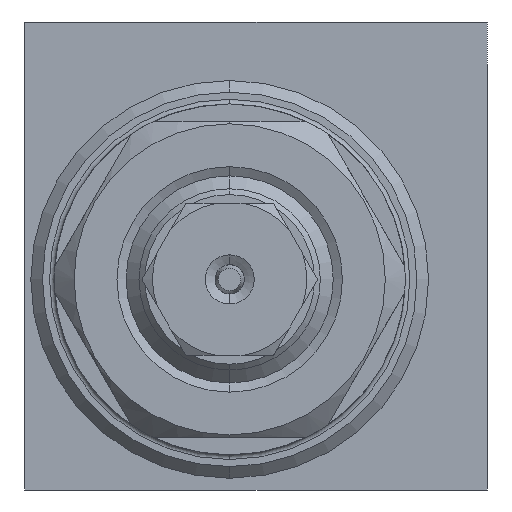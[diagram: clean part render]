
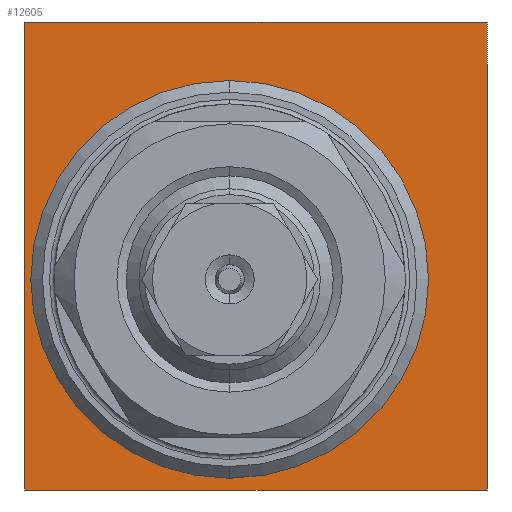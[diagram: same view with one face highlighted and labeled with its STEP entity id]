
A CAD part, left-side view. The second image highlights one B-rep face of the part: STEP entity #12605.
In plain terms, the highlighted planar face has unit normal (-1, 0, 0).
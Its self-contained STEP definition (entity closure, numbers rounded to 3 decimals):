
#59 = CARTESIAN_POINT ( 'NONE',  ( 0., 19.75, -20. ) ) ;
#429 = AXIS2_PLACEMENT_3D ( 'NONE', #5376, #5317, #5282 ) ;
#553 = CARTESIAN_POINT ( 'NONE',  ( 0., 19.75, 20. ) ) ;
#565 = CIRCLE ( 'NONE', #10814, 17. ) ;
#729 = CARTESIAN_POINT ( 'NONE',  ( 0., 2.25, 15. ) ) ;
#798 = VERTEX_POINT ( 'NONE', #12032 ) ;
#1093 = ORIENTED_EDGE ( 'NONE', *, *, #8546, .F. ) ;
#1127 = DIRECTION ( 'NONE',  ( 0., 0., 1. ) ) ;
#1177 = VERTEX_POINT ( 'NONE', #4985 ) ;
#1232 = FACE_BOUND ( 'NONE', #4697, .T. ) ;
#1444 = LINE ( 'NONE', #5188, #2100 ) ;
#1446 = VERTEX_POINT ( 'NONE', #5909 ) ;
#1578 = CIRCLE ( 'NONE', #429, 17. ) ;
#1594 = FACE_OUTER_BOUND ( 'NONE', #6208, .T. ) ;
#1920 = EDGE_CURVE ( 'NONE', #10709, #8813, #565, .T. ) ;
#2100 = VECTOR ( 'NONE', #13301, 1000. ) ;
#2372 = LINE ( 'NONE', #5985, #5237 ) ;
#2715 = DIRECTION ( 'NONE',  ( 0., 0., 1. ) ) ;
#2716 = CARTESIAN_POINT ( 'NONE',  ( 0., 2.25, -19. ) ) ;
#3316 = ORIENTED_EDGE ( 'NONE', *, *, #1920, .F. ) ;
#3734 = CARTESIAN_POINT ( 'NONE',  ( 0., 2.25, -2. ) ) ;
#4313 = ORIENTED_EDGE ( 'NONE', *, *, #7791, .F. ) ;
#4697 = EDGE_LOOP ( 'NONE', ( #4313, #3316 ) ) ;
#4794 = DIRECTION ( 'NONE',  ( 0., 0., 1. ) ) ;
#4985 = CARTESIAN_POINT ( 'NONE',  ( 0., -19.75, 20. ) ) ;
#5188 = CARTESIAN_POINT ( 'NONE',  ( 0., -19.75, 20. ) ) ;
#5237 = VECTOR ( 'NONE', #12963, 1000. ) ;
#5282 = DIRECTION ( 'NONE',  ( 0., 0., 1. ) ) ;
#5317 = DIRECTION ( 'NONE',  ( -1., 0., 0. ) ) ;
#5376 = CARTESIAN_POINT ( 'NONE',  ( 0., 2.25, -2. ) ) ;
#5909 = CARTESIAN_POINT ( 'NONE',  ( 0., 19.75, 20. ) ) ;
#5985 = CARTESIAN_POINT ( 'NONE',  ( 0., -19.75, -20. ) ) ;
#6208 = EDGE_LOOP ( 'NONE', ( #13760, #1093, #13962, #6664 ) ) ;
#6664 = ORIENTED_EDGE ( 'NONE', *, *, #12056, .F. ) ;
#7557 = DIRECTION ( 'NONE',  ( -1., 0., 0. ) ) ;
#7558 = CARTESIAN_POINT ( 'NONE',  ( 0., 19.75, -20. ) ) ;
#7675 = LINE ( 'NONE', #553, #10602 ) ;
#7791 = EDGE_CURVE ( 'NONE', #8813, #10709, #1578, .T. ) ;
#7806 = VECTOR ( 'NONE', #10994, 1000. ) ;
#7891 = LINE ( 'NONE', #11022, #7806 ) ;
#8546 = EDGE_CURVE ( 'NONE', #1177, #798, #7891, .T. ) ;
#8813 = VERTEX_POINT ( 'NONE', #729 ) ;
#9977 = PLANE ( 'NONE',  #10016 ) ;
#10016 = AXIS2_PLACEMENT_3D ( 'NONE', #59, #7557, #1127 ) ;
#10280 = EDGE_CURVE ( 'NONE', #1446, #1177, #1444, .T. ) ;
#10602 = VECTOR ( 'NONE', #2715, 1000. ) ;
#10709 = VERTEX_POINT ( 'NONE', #2716 ) ;
#10814 = AXIS2_PLACEMENT_3D ( 'NONE', #3734, #12871, #4794 ) ;
#10994 = DIRECTION ( 'NONE',  ( 0., 0., -1. ) ) ;
#11022 = CARTESIAN_POINT ( 'NONE',  ( 0., -19.75, 20. ) ) ;
#11032 = EDGE_CURVE ( 'NONE', #798, #11237, #2372, .T. ) ;
#11237 = VERTEX_POINT ( 'NONE', #7558 ) ;
#12032 = CARTESIAN_POINT ( 'NONE',  ( 0., -19.75, -20. ) ) ;
#12056 = EDGE_CURVE ( 'NONE', #11237, #1446, #7675, .T. ) ;
#12605 = ADVANCED_FACE ( 'NONE', ( #1232, #1594 ), #9977, .T. ) ;
#12871 = DIRECTION ( 'NONE',  ( -1., 0., 0. ) ) ;
#12963 = DIRECTION ( 'NONE',  ( 0., 1., 0. ) ) ;
#13301 = DIRECTION ( 'NONE',  ( 0., -1., 0. ) ) ;
#13760 = ORIENTED_EDGE ( 'NONE', *, *, #11032, .F. ) ;
#13962 = ORIENTED_EDGE ( 'NONE', *, *, #10280, .F. ) ;
